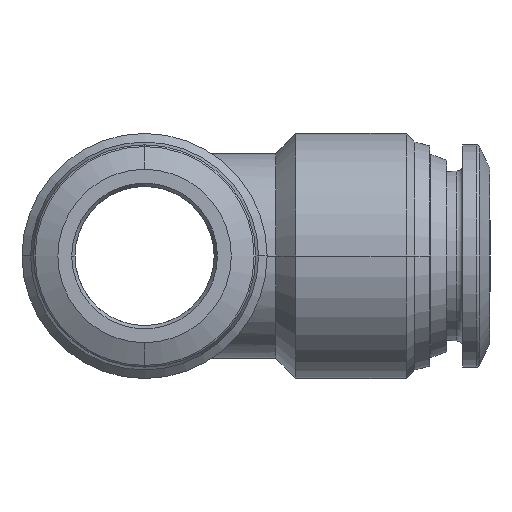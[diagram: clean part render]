
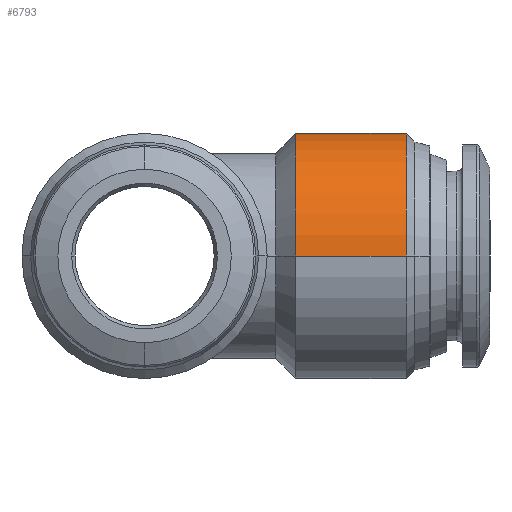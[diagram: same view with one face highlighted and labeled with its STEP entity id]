
A CAD part, left-side view. The second image highlights one B-rep face of the part: STEP entity #6793.
In plain terms, the highlighted cylindrical face has radius 10.75 mm (diameter 21.5 mm), a partial arc.
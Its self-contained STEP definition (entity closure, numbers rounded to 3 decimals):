
#15 = VERTEX_POINT ( 'NONE', #2068 ) ;
#17 = CIRCLE ( 'NONE', #7813, 10.75 ) ;
#51 = EDGE_CURVE ( 'NONE', #2176, #2103, #3306, .T. ) ;
#454 = CARTESIAN_POINT ( 'NONE',  ( 0., -22.948, 0. ) ) ;
#692 = CARTESIAN_POINT ( 'NONE',  ( -10.75, 0., 0. ) ) ;
#856 = CARTESIAN_POINT ( 'NONE',  ( -10.75, -13.25, 0. ) ) ;
#1001 = DIRECTION ( 'NONE',  ( 0., 1., 0. ) ) ;
#1156 = CARTESIAN_POINT ( 'NONE',  ( 10.75, 0., 0. ) ) ;
#1336 = CYLINDRICAL_SURFACE ( 'NONE', #7415, 10.75 ) ;
#1792 = CIRCLE ( 'NONE', #6081, 10.75 ) ;
#1977 = FACE_OUTER_BOUND ( 'NONE', #4185, .T. ) ;
#1985 = EDGE_CURVE ( 'NONE', #15, #2370, #3564, .T. ) ;
#1997 = DIRECTION ( 'NONE',  ( 0., 1., 0. ) ) ;
#2064 = DIRECTION ( 'NONE',  ( 0., 1., 0. ) ) ;
#2068 = CARTESIAN_POINT ( 'NONE',  ( 10.75, -22.948, 0. ) ) ;
#2093 = EDGE_CURVE ( 'NONE', #2176, #15, #1792, .T. ) ;
#2103 = VERTEX_POINT ( 'NONE', #856 ) ;
#2176 = VERTEX_POINT ( 'NONE', #8858 ) ;
#2314 = CARTESIAN_POINT ( 'NONE',  ( 0., 0., 0. ) ) ;
#2370 = VERTEX_POINT ( 'NONE', #6697 ) ;
#2837 = DIRECTION ( 'NONE',  ( 0., 1., 0. ) ) ;
#3088 = DIRECTION ( 'NONE',  ( -1., 0., 0. ) ) ;
#3306 = LINE ( 'NONE', #692, #3413 ) ;
#3413 = VECTOR ( 'NONE', #1997, 1000. ) ;
#3564 = LINE ( 'NONE', #1156, #4736 ) ;
#4185 = EDGE_LOOP ( 'NONE', ( #5614, #5110, #4845, #4781 ) ) ;
#4736 = VECTOR ( 'NONE', #1001, 1000. ) ;
#4781 = ORIENTED_EDGE ( 'NONE', *, *, #51, .F. ) ;
#4845 = ORIENTED_EDGE ( 'NONE', *, *, #5378, .F. ) ;
#5110 = ORIENTED_EDGE ( 'NONE', *, *, #1985, .T. ) ;
#5378 = EDGE_CURVE ( 'NONE', #2103, #2370, #17, .T. ) ;
#5614 = ORIENTED_EDGE ( 'NONE', *, *, #2093, .T. ) ;
#6081 = AXIS2_PLACEMENT_3D ( 'NONE', #454, #2837, #3088 ) ;
#6156 = CARTESIAN_POINT ( 'NONE',  ( 0., -13.25, 0. ) ) ;
#6697 = CARTESIAN_POINT ( 'NONE',  ( 10.75, -13.25, 0. ) ) ;
#6793 = ADVANCED_FACE ( 'NONE', ( #1977 ), #1336, .T. ) ;
#6856 = DIRECTION ( 'NONE',  ( -1., 0., 0. ) ) ;
#7115 = DIRECTION ( 'NONE',  ( -1., 0., 0. ) ) ;
#7415 = AXIS2_PLACEMENT_3D ( 'NONE', #2314, #8454, #7115 ) ;
#7813 = AXIS2_PLACEMENT_3D ( 'NONE', #6156, #2064, #6856 ) ;
#8454 = DIRECTION ( 'NONE',  ( 0., 1., 0. ) ) ;
#8858 = CARTESIAN_POINT ( 'NONE',  ( -10.75, -22.948, 0. ) ) ;
